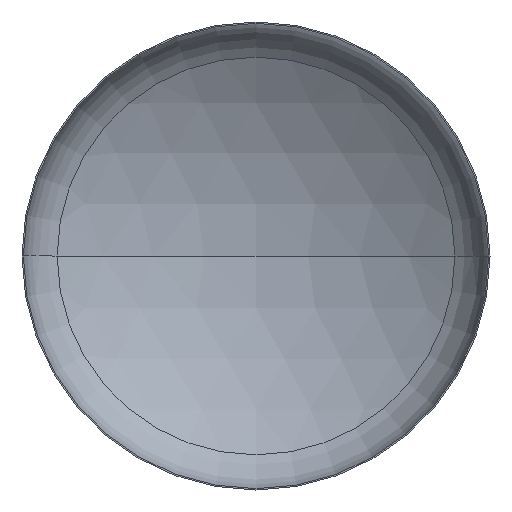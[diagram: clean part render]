
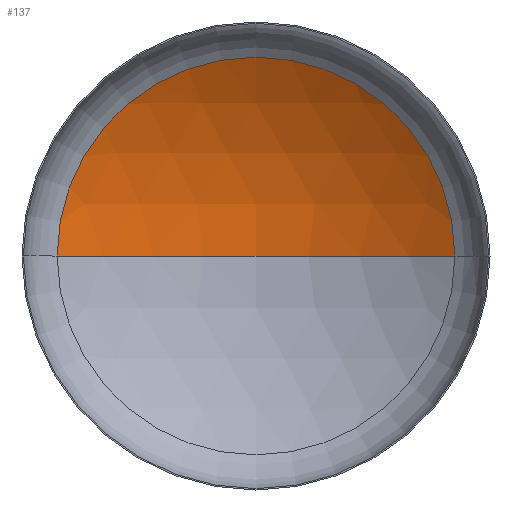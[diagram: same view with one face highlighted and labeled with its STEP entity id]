
A CAD part, front view. The second image highlights one B-rep face of the part: STEP entity #137.
In plain terms, the highlighted spherical face has radius 4800 mm.
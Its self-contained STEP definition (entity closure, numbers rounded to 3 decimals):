
#5 = VERTEX_POINT ( 'NONE', #16 ) ;
#15 = ORIENTED_EDGE ( 'NONE', *, *, #252, .T. ) ;
#16 = CARTESIAN_POINT ( 'NONE',  ( 2549.265, 838.763, 0. ) ) ;
#26 = VERTEX_POINT ( 'NONE', #316 ) ;
#46 = ORIENTED_EDGE ( 'NONE', *, *, #254, .F. ) ;
#55 = VERTEX_POINT ( 'NONE', #295 ) ;
#87 = DIRECTION ( 'NONE',  ( 1., 0., 0. ) ) ;
#91 = DIRECTION ( 'NONE',  ( 0., -1., 0. ) ) ;
#93 = EDGE_LOOP ( 'NONE', ( #46, #15, #99 ) ) ;
#98 = CARTESIAN_POINT ( 'NONE',  ( 0., 838.763, 0. ) ) ;
#99 = ORIENTED_EDGE ( 'NONE', *, *, #247, .T. ) ;
#130 = AXIS2_PLACEMENT_3D ( 'NONE', #300, #299, #298 ) ;
#134 = AXIS2_PLACEMENT_3D ( 'NONE', #226, #227, #248 ) ;
#137 = ADVANCED_FACE ( 'NONE', ( #405 ), #303, .F. ) ;
#138 = DIRECTION ( 'NONE',  ( -1., 0., 0. ) ) ;
#149 = AXIS2_PLACEMENT_3D ( 'NONE', #98, #91, #87 ) ;
#189 = AXIS2_PLACEMENT_3D ( 'NONE', #393, #286, #138 ) ;
#207 = CIRCLE ( 'NONE', #149, 2549.265 ) ;
#226 = CARTESIAN_POINT ( 'NONE',  ( 0., -3228.331, 0. ) ) ;
#227 = DIRECTION ( 'NONE',  ( 0., 0., -1. ) ) ;
#247 = EDGE_CURVE ( 'NONE', #5, #55, #207, .T. ) ;
#248 = DIRECTION ( 'NONE',  ( -1., 0., 0. ) ) ;
#252 = EDGE_CURVE ( 'NONE', #26, #5, #336, .T. ) ;
#254 = EDGE_CURVE ( 'NONE', #26, #55, #379, .T. ) ;
#286 = DIRECTION ( 'NONE',  ( 0., 0., -1. ) ) ;
#295 = CARTESIAN_POINT ( 'NONE',  ( -2549.265, 838.763, 0. ) ) ;
#298 = DIRECTION ( 'NONE',  ( 1., 0., 0. ) ) ;
#299 = DIRECTION ( 'NONE',  ( 0., 0., 1. ) ) ;
#300 = CARTESIAN_POINT ( 'NONE',  ( 0., -3228.331, 0. ) ) ;
#303 = SPHERICAL_SURFACE ( 'NONE', #189, 4800. ) ;
#316 = CARTESIAN_POINT ( 'NONE',  ( 0., 1571.669, 0. ) ) ;
#336 = CIRCLE ( 'NONE', #134, 4800. ) ;
#379 = CIRCLE ( 'NONE', #130, 4800. ) ;
#393 = CARTESIAN_POINT ( 'NONE',  ( 0., -3228.331, 0. ) ) ;
#405 = FACE_OUTER_BOUND ( 'NONE', #93, .T. ) ;
